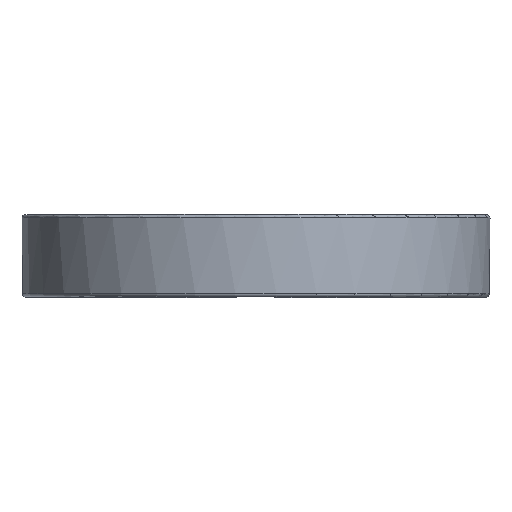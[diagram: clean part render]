
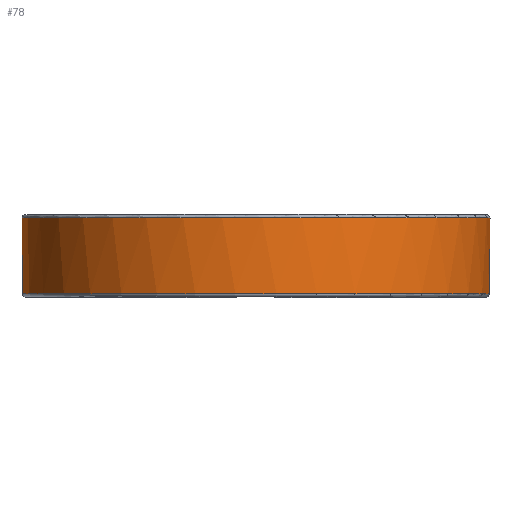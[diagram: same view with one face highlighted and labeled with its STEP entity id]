
A CAD part, top view. The second image highlights one B-rep face of the part: STEP entity #78.
In plain terms, the highlighted cylindrical face has radius 37 mm (diameter 74 mm), a full revolution.
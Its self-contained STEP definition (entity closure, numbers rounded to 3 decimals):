
#47=FACE_BOUND('',#160,.T.);
#48=FACE_BOUND('',#161,.T.);
#56=B_SPLINE_CURVE_WITH_KNOTS('',3,(#1067,#1068,#1069,#1070,#1071,#1072,
#1073,#1074,#1075,#1076,#1077,#1078,#1079,#1080,#1081,#1082,#1083,#1084,
#1085,#1086,#1087,#1088,#1089,#1090,#1091,#1092,#1093,#1094,#1095,#1096,
#1097),.UNSPECIFIED.,.F.,.F.,(4,3,3,3,3,3,3,3,3,3,4),(0.,0.107,
0.214,0.322,0.429,0.537,
0.644,0.751,0.858,0.966,
1.),.UNSPECIFIED.);
#62=CYLINDRICAL_SURFACE('',#702,37.);
#78=ADVANCED_FACE('',(#47,#48),#62,.T.);
#160=EDGE_LOOP('',(#369));
#161=EDGE_LOOP('',(#370,#371,#372,#373));
#223=LINE('',#1101,#279);
#224=LINE('',#1105,#280);
#279=VECTOR('',#829,1.);
#280=VECTOR('',#832,1.);
#369=ORIENTED_EDGE('',*,*,#604,.F.);
#370=ORIENTED_EDGE('',*,*,#605,.F.);
#371=ORIENTED_EDGE('',*,*,#606,.F.);
#372=ORIENTED_EDGE('',*,*,#607,.T.);
#373=ORIENTED_EDGE('',*,*,#603,.T.);
#533=VERTEX_POINT('',#1064);
#534=VERTEX_POINT('',#1066);
#535=VERTEX_POINT('',#1100);
#536=VERTEX_POINT('',#1102);
#537=VERTEX_POINT('',#1104);
#603=EDGE_CURVE('',#533,#534,#56,.T.);
#604=EDGE_CURVE('',#535,#535,#662,.T.);
#605=EDGE_CURVE('',#536,#534,#223,.T.);
#606=EDGE_CURVE('',#537,#536,#663,.T.);
#607=EDGE_CURVE('',#537,#533,#224,.T.);
#662=CIRCLE('',#700,37.);
#663=CIRCLE('',#701,37.);
#700=AXIS2_PLACEMENT_3D('',#1099,#827,#828);
#701=AXIS2_PLACEMENT_3D('',#1103,#830,#831);
#702=AXIS2_PLACEMENT_3D('',#1106,#833,#834);
#827=DIRECTION('',(0.,1.,0.));
#828=DIRECTION('',(1.,0.,0.));
#829=DIRECTION('',(0.,1.,0.));
#830=DIRECTION('',(0.,-1.,0.));
#831=DIRECTION('',(0.081,0.,-0.997));
#832=DIRECTION('',(0.,1.,0.));
#833=DIRECTION('',(0.,1.,0.));
#834=DIRECTION('',(-1.,0.,0.));
#1064=CARTESIAN_POINT('',(3.,0.6,-36.878));
#1066=CARTESIAN_POINT('',(-3.,0.6,-36.878));
#1067=CARTESIAN_POINT('',(3.,0.6,-36.878));
#1068=CARTESIAN_POINT('',(3.,0.935,-36.878));
#1069=CARTESIAN_POINT('',(2.942,1.275,-36.883));
#1070=CARTESIAN_POINT('',(2.832,1.591,-36.891));
#1071=CARTESIAN_POINT('',(2.721,1.907,-36.9));
#1072=CARTESIAN_POINT('',(2.554,2.209,-36.912));
#1073=CARTESIAN_POINT('',(2.345,2.471,-36.926));
#1074=CARTESIAN_POINT('',(2.136,2.733,-36.939));
#1075=CARTESIAN_POINT('',(1.879,2.963,-36.953));
#1076=CARTESIAN_POINT('',(1.595,3.141,-36.966));
#1077=CARTESIAN_POINT('',(1.31,3.32,-36.978));
#1078=CARTESIAN_POINT('',(0.99,3.452,-36.988));
#1079=CARTESIAN_POINT('',(0.662,3.526,-36.994));
#1080=CARTESIAN_POINT('',(0.335,3.6,-37.));
#1081=CARTESIAN_POINT('',(-0.009,3.619,-37.002));
#1082=CARTESIAN_POINT('',(-0.343,3.58,-36.998));
#1083=CARTESIAN_POINT('',(-0.675,3.542,-36.995));
#1084=CARTESIAN_POINT('',(-1.006,3.446,-36.988));
#1085=CARTESIAN_POINT('',(-1.307,3.3,-36.977));
#1086=CARTESIAN_POINT('',(-1.608,3.155,-36.966));
#1087=CARTESIAN_POINT('',(-1.889,2.955,-36.953));
#1088=CARTESIAN_POINT('',(-2.125,2.717,-36.939));
#1089=CARTESIAN_POINT('',(-2.362,2.48,-36.925));
#1090=CARTESIAN_POINT('',(-2.561,2.197,-36.912));
#1091=CARTESIAN_POINT('',(-2.706,1.894,-36.901));
#1092=CARTESIAN_POINT('',(-2.851,1.591,-36.89));
#1093=CARTESIAN_POINT('',(-2.946,1.259,-36.883));
#1094=CARTESIAN_POINT('',(-2.982,0.925,-36.88));
#1095=CARTESIAN_POINT('',(-2.994,0.817,-36.879));
#1096=CARTESIAN_POINT('',(-3.,0.708,-36.878));
#1097=CARTESIAN_POINT('',(-3.,0.6,-36.878));
#1099=CARTESIAN_POINT('',(0.,12.5,0.));
#1100=CARTESIAN_POINT('',(37.,12.5,0.));
#1101=CARTESIAN_POINT('',(-3.,0.5,-36.878));
#1102=CARTESIAN_POINT('',(-3.,0.5,-36.878));
#1103=CARTESIAN_POINT('',(0.,0.5,0.));
#1104=CARTESIAN_POINT('',(3.,0.5,-36.878));
#1105=CARTESIAN_POINT('',(3.,0.5,-36.878));
#1106=CARTESIAN_POINT('',(0.,0.,0.));
